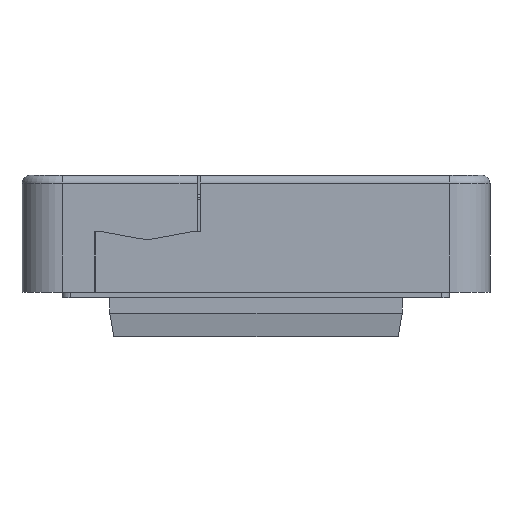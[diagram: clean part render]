
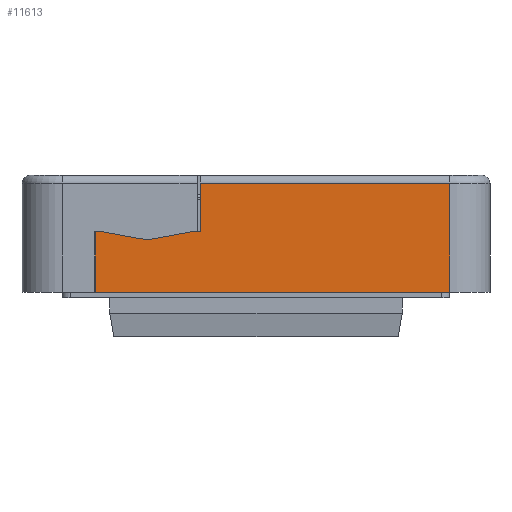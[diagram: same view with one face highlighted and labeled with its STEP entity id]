
A CAD part, left-side view. The second image highlights one B-rep face of the part: STEP entity #11613.
In plain terms, the highlighted planar face has unit normal (-1, 0, 0) as drawn and (1, 0, 0) by its records, which use the part's own axes.
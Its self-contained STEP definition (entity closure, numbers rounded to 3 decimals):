
#1253=FACE_OUTER_BOUND('',#1932,.T.);
#1932=EDGE_LOOP('',(#9552,#9553,#9554,#9555,#9556,#9557,#9558,#9559,#9560));
#2909=LINE('',#18652,#4102);
#2945=LINE('',#18803,#4138);
#2949=LINE('',#18809,#4142);
#2951=LINE('',#18813,#4144);
#2952=LINE('',#18815,#4145);
#2953=LINE('',#18816,#4146);
#2954=LINE('',#18818,#4147);
#2955=LINE('',#18820,#4148);
#2956=LINE('',#18821,#4149);
#4102=VECTOR('',#14610,10.);
#4138=VECTOR('',#14698,10.);
#4142=VECTOR('',#14704,10.);
#4144=VECTOR('',#14708,10.);
#4145=VECTOR('',#14709,10.);
#4146=VECTOR('',#14710,10.);
#4147=VECTOR('',#14711,10.);
#4148=VECTOR('',#14712,10.);
#4149=VECTOR('',#14713,10.);
#5282=VERTEX_POINT('',#18649);
#5283=VERTEX_POINT('',#18651);
#5331=VERTEX_POINT('',#18801);
#5332=VERTEX_POINT('',#18802);
#5333=VERTEX_POINT('',#18808);
#5334=VERTEX_POINT('',#18812);
#5335=VERTEX_POINT('',#18814);
#5336=VERTEX_POINT('',#18817);
#5337=VERTEX_POINT('',#18819);
#6759=EDGE_CURVE('',#5283,#5282,#2909,.T.);
#6817=EDGE_CURVE('',#5331,#5332,#2945,.T.);
#6821=EDGE_CURVE('',#5333,#5331,#2949,.T.);
#6823=EDGE_CURVE('',#5282,#5334,#2951,.T.);
#6824=EDGE_CURVE('',#5334,#5335,#2952,.T.);
#6825=EDGE_CURVE('',#5335,#5333,#2953,.T.);
#6826=EDGE_CURVE('',#5336,#5332,#2954,.T.);
#6827=EDGE_CURVE('',#5337,#5336,#2955,.T.);
#6828=EDGE_CURVE('',#5283,#5337,#2956,.T.);
#9552=ORIENTED_EDGE('',*,*,#6823,.T.);
#9553=ORIENTED_EDGE('',*,*,#6824,.T.);
#9554=ORIENTED_EDGE('',*,*,#6825,.T.);
#9555=ORIENTED_EDGE('',*,*,#6821,.T.);
#9556=ORIENTED_EDGE('',*,*,#6817,.T.);
#9557=ORIENTED_EDGE('',*,*,#6826,.F.);
#9558=ORIENTED_EDGE('',*,*,#6827,.F.);
#9559=ORIENTED_EDGE('',*,*,#6828,.F.);
#9560=ORIENTED_EDGE('',*,*,#6759,.T.);
#11050=PLANE('',#12513);
#11613=ADVANCED_FACE('',(#1253),#11050,.T.);
#12513=AXIS2_PLACEMENT_3D('',#18811,#14706,#14707);
#14610=DIRECTION('',(0.,0.,1.));
#14698=DIRECTION('',(0.,0.,1.));
#14704=DIRECTION('',(0.,1.,0.));
#14706=DIRECTION('center_axis',(1.,0.,0.));
#14707=DIRECTION('ref_axis',(0.,0.,-1.));
#14708=DIRECTION('',(0.,1.,0.));
#14709=DIRECTION('',(0.,0.984,0.179));
#14710=DIRECTION('',(0.,0.984,-0.179));
#14711=DIRECTION('',(0.,1.,0.));
#14712=DIRECTION('',(0.,0.,1.));
#14713=DIRECTION('',(0.,-1.,0.));
#18649=CARTESIAN_POINT('',(50.5,6.9,-8.));
#18651=CARTESIAN_POINT('',(50.5,6.9,-14.));
#18652=CARTESIAN_POINT('',(50.5,6.9,-5.927));
#18801=CARTESIAN_POINT('',(50.5,19.9,-8.));
#18802=CARTESIAN_POINT('',(50.5,19.9,-0.5));
#18803=CARTESIAN_POINT('',(50.5,19.9,-2.554));
#18808=CARTESIAN_POINT('',(50.5,19.,-8.));
#18809=CARTESIAN_POINT('',(50.5,-3.75,-8.));
#18811=CARTESIAN_POINT('Origin',(50.5,-27.5,0.));
#18812=CARTESIAN_POINT('',(50.5,8.,-8.));
#18813=CARTESIAN_POINT('',(50.5,-3.75,-8.));
#18814=CARTESIAN_POINT('',(50.5,13.5,-7.));
#18815=CARTESIAN_POINT('',(50.5,-5.728,-10.496));
#18816=CARTESIAN_POINT('',(50.5,-4.21,-3.78));
#18817=CARTESIAN_POINT('',(50.5,-24.,-0.5));
#18818=CARTESIAN_POINT('',(50.5,-29.,-0.5));
#18819=CARTESIAN_POINT('',(50.5,-24.,-14.));
#18820=CARTESIAN_POINT('',(50.5,-24.,-0.25));
#18821=CARTESIAN_POINT('',(50.5,-13.75,-14.));
